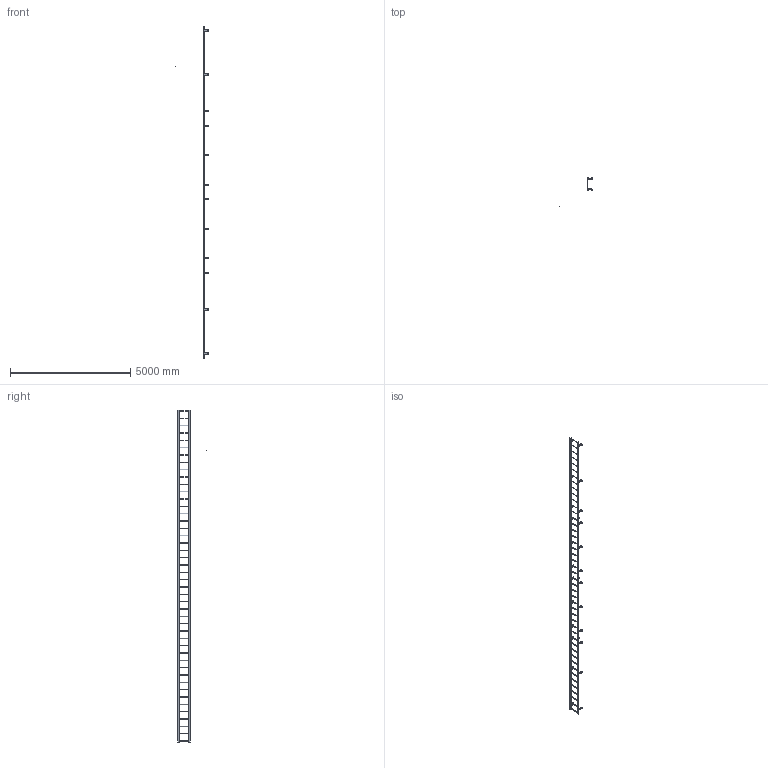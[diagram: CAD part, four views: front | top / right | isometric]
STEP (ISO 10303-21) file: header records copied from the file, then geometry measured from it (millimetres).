
FILE_DESCRIPTION(/* description */ (''),/* implementation_level */ '2;1');
FILE_NAME(/* name */ 'P:\MIKEL & KAREN\3570362 F46S SIMPLIFIED PART.stp',/* time_stamp */ '2018-07-02T16:06:16-04:00',/* author */ ('stephanie'),/* organization */ (''),/* preprocessor_version */ 'ST-DEVELOPER v16.1',/* originating_system */ 'Autodesk Inventor 2016',/* authorisation */ '');
FILE_SCHEMA (('AUTOMOTIVE_DESIGN { 1 0 10303 214 3 1 1 }'));
Length unit declared in the file: centimetre
Products named in the file (1): 3570362 F46S SIMPLIFIED PART
Bounding box: 1332.25 x 1204.31 x 13792.2 mm (x, y, z)
Volume: 24038511.3 mm3; surface area: 7221113.3 mm2
Topology: 49 solids, 49 shells, 705 faces, 1895 edges, 1264 vertices
Faces by surface type: plane 416, cylinder 289
Full cylindrical faces by diameter (mm): 0.254 x1, 14.287 x30, 19.05 x46, 22.225 x92
Entity records: 21503 total; most frequent: DIRECTION 3642, CARTESIAN_POINT 3452, ORIENTED_EDGE 3208, EDGE_CURVE 1604, AXIS2_PLACEMENT_3D 1332, VERTEX_POINT 1142, EDGE_LOOP 1118, LINE 978
